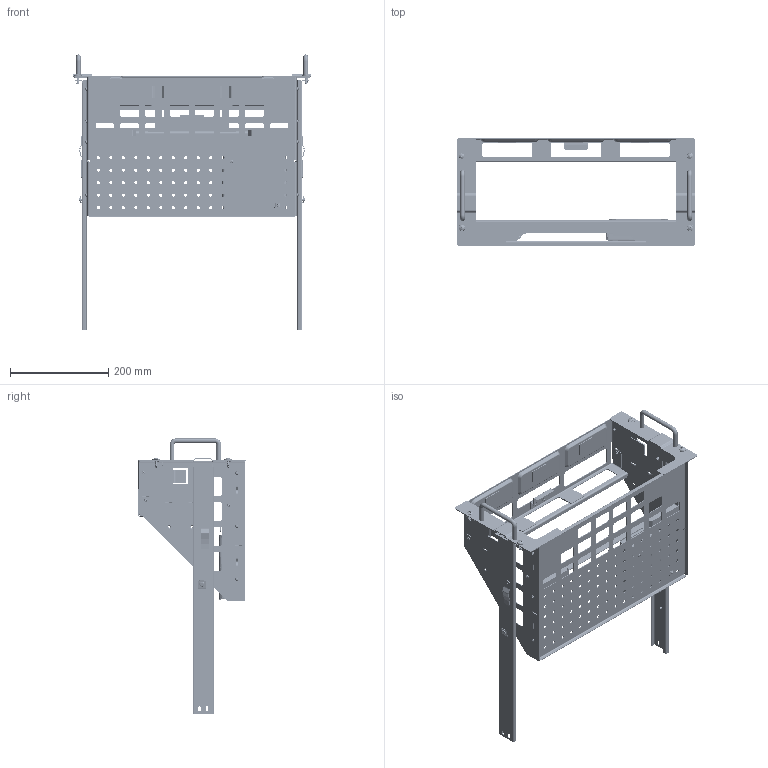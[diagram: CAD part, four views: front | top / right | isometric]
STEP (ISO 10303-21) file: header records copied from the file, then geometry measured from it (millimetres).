
FILE_DESCRIPTION((''),'2;1');
FILE_NAME('MODULE_RACKMOUNT_4CHN_BDA_ASM','2020-11-16T14:12:00',('mthomps2'),(''),'CREO PARAMETRIC BY PTC INC, 2019080','CREO PARAMETRIC BY PTC INC, 2019080','');
FILE_SCHEMA(('CONFIG_CONTROL_DESIGN','SHAPE_APPEARANCE_LAYERS_GROUPS'));
Length unit declared in the file: inch
Products named in the file (88): BRKT_RKMT_BOTTOM_B4_CRN; S-632-2; BRKT_RKMT_BOTTOM_B4_CRN_ASM; BRKT_RKMT_TOP_B4_CRN; CUSHION_RKMT_MAL; BRKT_RKMT_TOP_B4_CRN_ASM; BRKT_RKMT_RIGHT_SIDE_B4_CRN; SS-032-2; BRKT_RKMT_RIGHT_SIDE_B4_CRN_ASM; BRKT_RKMT_LEFT_SIDE_B4_CRN; TPS-125-6; BRKT_RKMT_LEFT_SIDE_B4_CRN_ASM; BRKT_RKMT_RIGHT_FRONT_B4_CRN; BRKT_RKMT_LEFT_FRONT_B4_CRN; BRKT_RKMT_TOP_HOLDER_B4_CRN; SP-632-0; BRKT_RKMT_TOP_HOLDER_B4_CRN_ASM; RACK_SLIDE_SKEL_R66; 351109500_RH_STATIONARY; 351_SPRING_STOP_1; 351_BUTTON_1; 351_SPRING_STOP_1FLAT; 351_STOP_ASSY_1_ASM; 351_STOP_PIN; 351109500_RH_STATIONARY_ASSY_ASM; 351109500_RH_INTERMEDIATE; 351109500_RH_CHASSIS; 351_SPRING_STOP_3; 351_BUTTON_3; 351_STOP_ASSY_3_ASM; 351109500_RH_CHASSIS_ASSY_ASM; RACK_SLIDE_R66_ASM; SCREW_FH_8-32X500_POZ_SS_LIB; AN_HANDLE_RM2; BRKT_RKMT_REAR_FEET_B4_CRN; BRKT_RKMT_REAR_FEET_B4_CRN_ASM; SCREW_PH_6-32X312_POZ_SS_LIB; SCREW_OH_M5X16_PH_SS_LIB; SCREW_OH_M6X16_PH_SS_LIB; SCREW_OH_10-32X75_POZ_ST_ZI_LIB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
Assembly tree (165 placements, depth 5):
  MODULE_RACKMOUNT_4CHN_BDA_ASM
    BRKT_RKMT_BOTTOM_B4_CRN_ASM
      BRKT_RKMT_BOTTOM_B4_CRN
      S-632-2  x6
    BRKT_RKMT_TOP_B4_CRN_ASM
      BRKT_RKMT_TOP_B4_CRN
      S-632-2  x4
      CUSHION_RKMT_MAL  x5
    BRKT_RKMT_RIGHT_SIDE_B4_CRN_ASM
      BRKT_RKMT_RIGHT_SIDE_B4_CRN
      SS-032-2  x3
      CUSHION_RKMT_MAL
    BRKT_RKMT_LEFT_SIDE_B4_CRN_ASM
      BRKT_RKMT_LEFT_SIDE_B4_CRN
      SS-032-2  x3
      TPS-125-6
      CUSHION_RKMT_MAL
    BRKT_RKMT_RIGHT_FRONT_B4_CRN
    BRKT_RKMT_LEFT_FRONT_B4_CRN
    BRKT_RKMT_TOP_HOLDER_B4_CRN_ASM
      BRKT_RKMT_TOP_HOLDER_B4_CRN
      SP-632-0  x2
    RACK_SLIDE_R66_ASM  x2
      RACK_SLIDE_SKEL_R66
      351109500_RH_STATIONARY_ASSY_ASM
        351109500_RH_STATIONARY
        351_STOP_ASSY_1_ASM
          351_SPRING_STOP_1
          351_BUTTON_1
          351_SPRING_STOP_1FLAT
        351_STOP_PIN
      351109500_RH_INTERMEDIATE
      351109500_RH_CHASSIS_ASSY_ASM
        351109500_RH_CHASSIS
        351_STOP_ASSY_3_ASM
          351_SPRING_STOP_3
          351_BUTTON_3
    SCREW_FH_8-32X500_POZ_SS_LIB  x4
    AN_HANDLE_RM2  x2
    BRKT_RKMT_REAR_FEET_B4_CRN_ASM
      BRKT_RKMT_REAR_FEET_B4_CRN
      S-632-2  x2
    SCREW_PH_6-32X312_POZ_SS_LIB  x14
    SCREW_OH_M5X16_PH_SS_LIB  x4
    SCREW_OH_M6X16_PH_SS_LIB  x4
    SCREW_OH_10-32X75_POZ_ST_ZI_LIB  x4
    SCREW_OH_12-24X75_POZ_ST_ZI_LIB  x4
    WASHER_FLAT_203X625_ST_ZI_LIB  x3
    WASHER_FLAT_M6_ST_ZI_LIB  x3
    WASHER_FINISH  x3
    MANUAL_RKMT_4CHN_BDA
    KIT_HARDWARE_RKMT_BULK_FSN
    SCREW_FH_6-32X312_TX10_LIB  x2
    MODULE_GPIB_DONGLE_R66_ASM
      MODULE_SKEL_GPIB_DONGLE_R66
      LOC_DONGLE_R66
      PCB_GPIB_R66_ASM
        PCB_SKEL_GPIB_R66
        PCB_GPIB_DONGLE_R66
        CONN_USB-B_PBFREE_LIB
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Bounding box: 482.6 x 219.71 x 560.41 mm (x, y, z)
Volume: 942553.3 mm3; surface area: 1202290.2 mm2
Topology: 145 solids, 151 shells, 7318 faces, 18878 edges, 11902 vertices
Faces by surface type: plane 3825, cylinder 2174, cone 549, bspline 382, torus 256, sphere 88, extrusion 44
Entity records: 207240 total; most frequent: CARTESIAN_POINT 50025, ORIENTED_EDGE 25438, DIRECTION 24840, EDGE_CURVE 12719, PRESENTATION_STYLE_ASSIGNMENT 9995, STYLED_ITEM 9995, CURVE_STYLE 9065, VECTOR 8348
